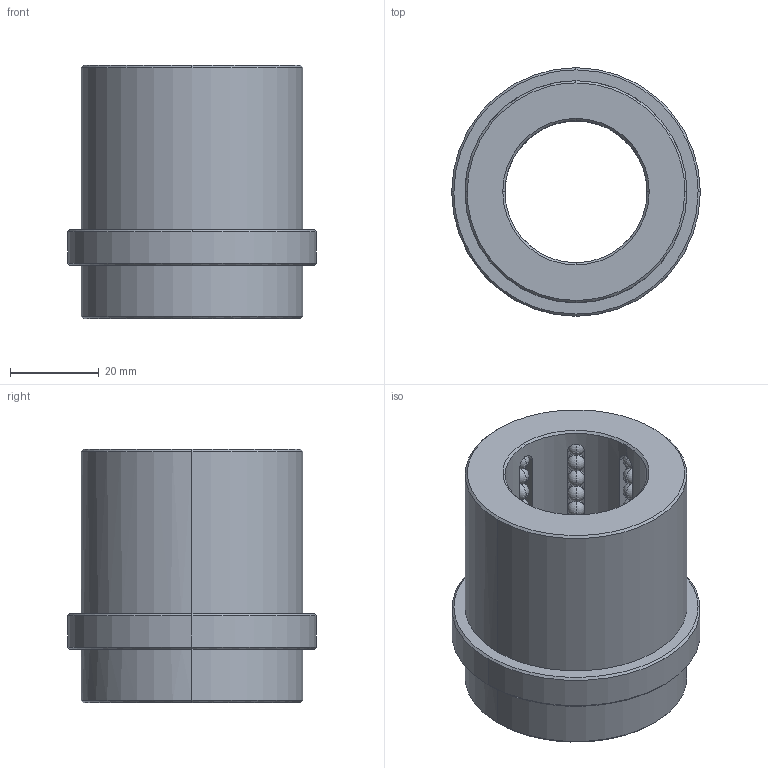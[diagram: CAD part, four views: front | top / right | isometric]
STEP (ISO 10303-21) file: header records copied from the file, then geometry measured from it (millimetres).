
FILE_DESCRIPTION(('CATIA V5 STEP Exchange'),'2;1');
FILE_NAME('C:\Users\Raffaele\Desktop\3D BOLEX\3D FILES CF BOLEX\2-BUSH REF 802\B8023245.stp','2019-06-19T13:54:45+00:00',('none'),('none'),'CATIA Version 5 Release 20 GA (IN-10)','CATIA V5 STEP AP203','none');
FILE_SCHEMA(('CONFIG_CONTROL_DESIGN'));
Length unit declared in the file: millimetre
Products named in the file (1): B8023245
Bounding box: 56 x 56 x 57 mm (x, y, z)
Volume: 66969.9 mm3; surface area: 26085.9 mm2
Topology: 97 solids, 97 shells, 460 faces, 1338 edges, 312 vertices
Faces by surface type: sphere 384, plane 28, cylinder 24, cone 24
Entity records: 9078 total; most frequent: CARTESIAN_POINT 1963, DIRECTION 1441, ORIENTED_EDGE 1140, AXIS2_PLACEMENT_3D 884, EDGE_CURVE 570, EDGE_LOOP 470, ADVANCED_FACE 460, FACE_OUTER_BOUND 460
